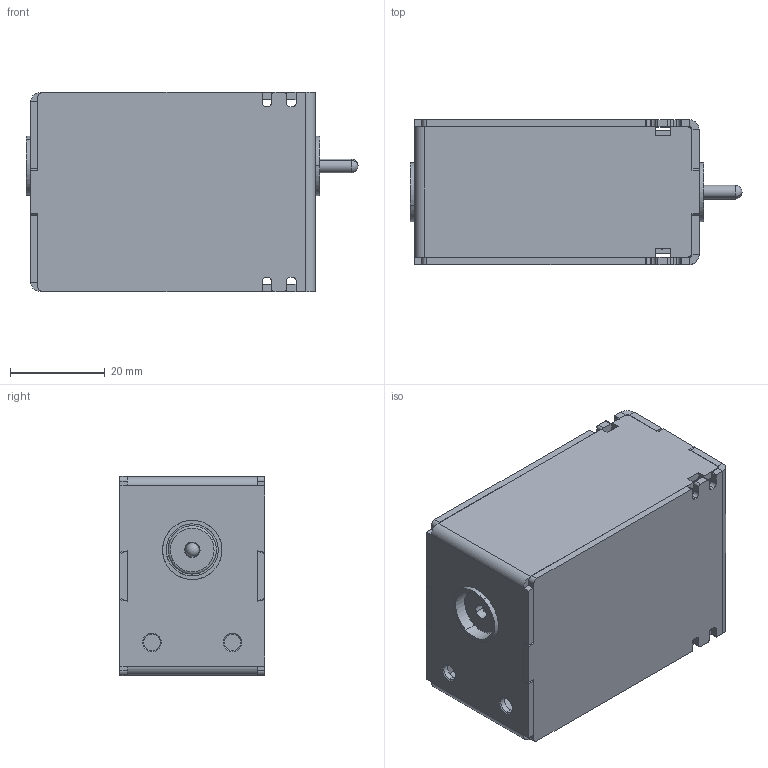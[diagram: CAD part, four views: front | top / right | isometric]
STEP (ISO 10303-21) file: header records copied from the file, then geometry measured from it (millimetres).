
FILE_DESCRIPTION (( 'STEP AP203' ), '1' );
FILE_NAME ('1600分励 欠压.STEP', '2024-09-20T10:22:41', ( 'A' ), ( '' ), 'SwSTEP 2.0', 'SolidWorks 2018', '' );
FILE_SCHEMA (( 'CONFIG_CONTROL_DESIGN' ));
Length unit declared in the file: millimetre
Products named in the file (1): 1600分励 欠压_·_1__¤_1
Bounding box: 70.05 x 30.6 x 42 mm (x, y, z)
Surface area: 24411.2 mm2 (no closed solid volume)
Topology: 0 solids, 48 shells, 314 faces, 1262 edges, 995 vertices
Faces by surface type: plane 202, cylinder 74, bspline 23, cone 8, torus 4, sphere 3
Entity records: 19422 total; most frequent: CARTESIAN_POINT 9361, ORIENTED_EDGE 1908, DIRECTION 1808, EDGE_CURVE 1254, VERTEX_POINT 991, LINE 836, VECTOR 836, AXIS2_PLACEMENT_3D 486
